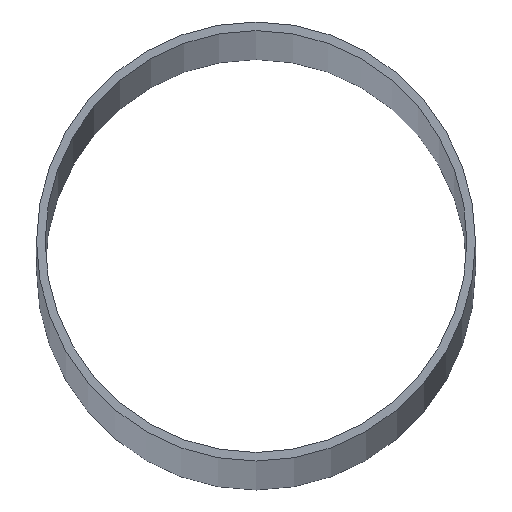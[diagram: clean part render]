
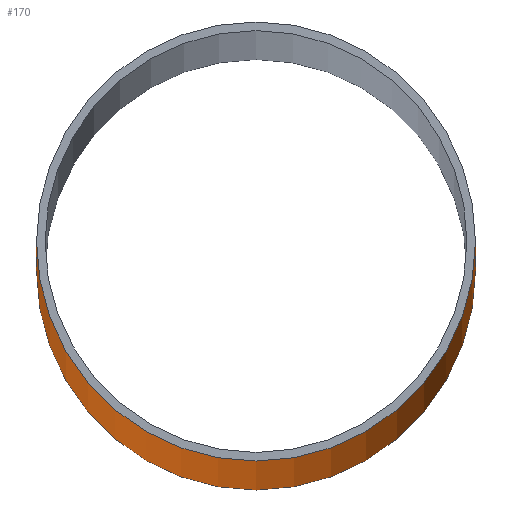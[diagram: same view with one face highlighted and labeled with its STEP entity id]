
A CAD part, top view. The second image highlights one B-rep face of the part: STEP entity #170.
In plain terms, the highlighted cylindrical face has radius 76.75 mm (diameter 153.5 mm), a partial arc.
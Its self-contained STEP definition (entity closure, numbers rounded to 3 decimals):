
#25=CARTESIAN_POINT('',(0.,0.,-2900.));
#26=DIRECTION('',(0.,0.,1.));
#27=DIRECTION('',(-1.,0.,0.));
#28=AXIS2_PLACEMENT_3D('',#25,#26,#27);
#49=DIRECTION('',(0.,0.,1.));
#50=VECTOR('',#49,5800.);
#51=CARTESIAN_POINT('',(76.75,0.,-2900.));
#52=LINE('',#51,#50);
#56=DIRECTION('',(0.,0.,1.));
#57=VECTOR('',#56,5800.);
#58=CARTESIAN_POINT('',(-76.75,0.,-2900.));
#59=LINE('',#58,#57);
#71=CARTESIAN_POINT('',(0.,0.,2900.));
#72=DIRECTION('',(0.,0.,1.));
#73=DIRECTION('',(-1.,0.,0.));
#74=AXIS2_PLACEMENT_3D('',#71,#72,#73);
#109=CARTESIAN_POINT('',(76.75,0.,-2900.));
#110=CARTESIAN_POINT('',(-76.75,0.,-2900.));
#111=VERTEX_POINT('',#109);
#112=VERTEX_POINT('',#110);
#117=CARTESIAN_POINT('',(76.75,0.,2900.));
#118=CARTESIAN_POINT('',(-76.75,0.,2900.));
#119=VERTEX_POINT('',#117);
#120=VERTEX_POINT('',#118);
#158=CARTESIAN_POINT('',(0.,0.,-2900.));
#159=DIRECTION('',(0.,0.,1.));
#160=DIRECTION('',(1.,0.,0.));
#161=AXIS2_PLACEMENT_3D('',#158,#159,#160);
#162=CYLINDRICAL_SURFACE('',#161,76.75);
#163=ORIENTED_EDGE('',*,*,#132,.F.);
#164=ORIENTED_EDGE('',*,*,#153,.T.);
#166=ORIENTED_EDGE('',*,*,#165,.T.);
#167=ORIENTED_EDGE('',*,*,#149,.F.);
#168=EDGE_LOOP('',(#163,#164,#166,#167));
#169=FACE_OUTER_BOUND('',#168,.F.);
#29=CIRCLE('',#28,76.75);
#75=CIRCLE('',#74,76.75);
#132=EDGE_CURVE('',#112,#111,#29,.T.);
#149=EDGE_CURVE('',#111,#119,#52,.T.);
#153=EDGE_CURVE('',#112,#120,#59,.T.);
#165=EDGE_CURVE('',#120,#119,#75,.T.);
#170=ADVANCED_FACE('',(#169),#162,.T.);
